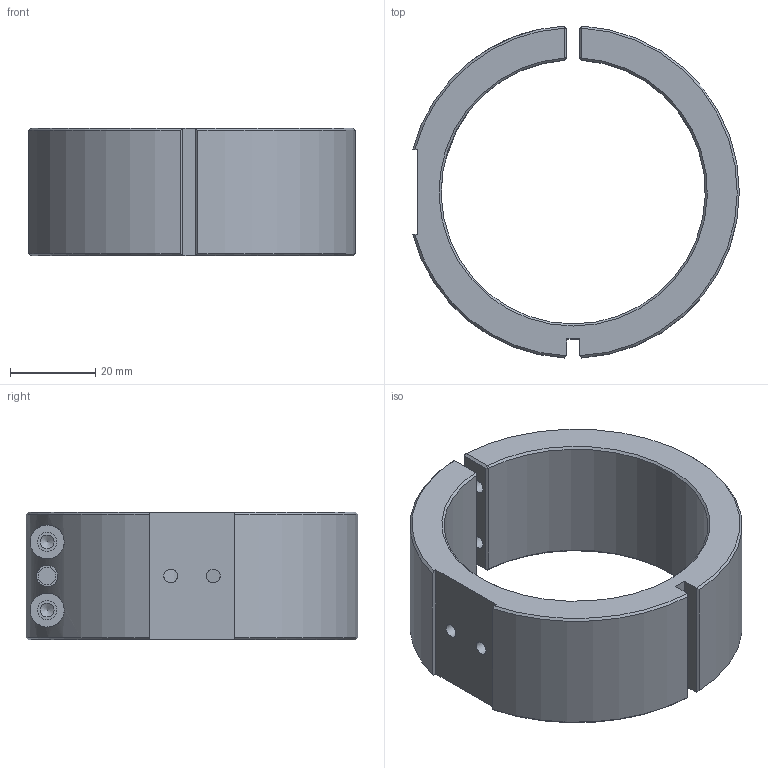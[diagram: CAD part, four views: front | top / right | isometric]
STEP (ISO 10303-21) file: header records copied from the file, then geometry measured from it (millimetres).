
FILE_DESCRIPTION((''),'2;1');
FILE_NAME('Z:\Systeme\Neue_Zeichnungen\Z3005593-01.stp','2012-10-15T10:46:56',('11000116'),(''),'Autodesk Inventor 2012','Autodesk Inventor 2012','');
FILE_SCHEMA(('AUTOMOTIVE_DESIGN { 1 0 10303 214 1 1 1 1 }'));
Length unit declared in the file: millimetre
Products named in the file (1): Z3005593-01
Bounding box: 76.7 x 77.9 x 30 mm (x, y, z)
Volume: 48539.9 mm3; surface area: 17871.9 mm2
Topology: 1 solids, 1 shells, 71 faces, 176 edges, 110 vertices
Faces by surface type: bspline 24, plane 23, cylinder 14, cone 10
Full cylindrical faces by diameter (mm): 3.242 x4, 4.134 x1, 4.5 x2, 5 x1
Entity records: 3056 total; most frequent: CARTESIAN_POINT 1599, ORIENTED_EDGE 320, DIRECTION 220, EDGE_CURVE 160, VERTEX_POINT 104, EDGE_LOOP 94, AXIS2_PLACEMENT_3D 79, FACE_OUTER_BOUND 71
